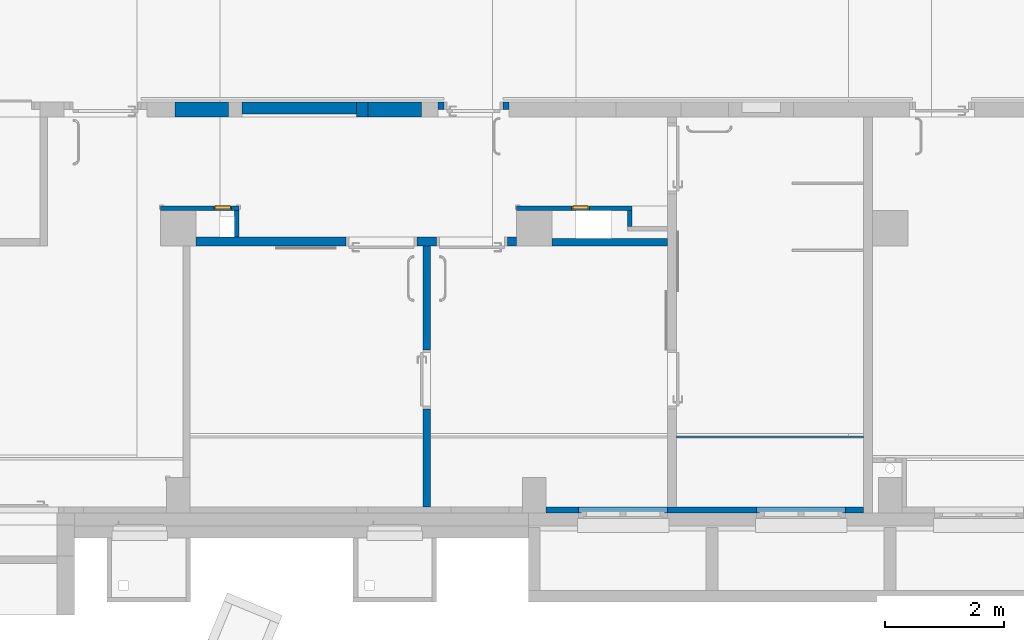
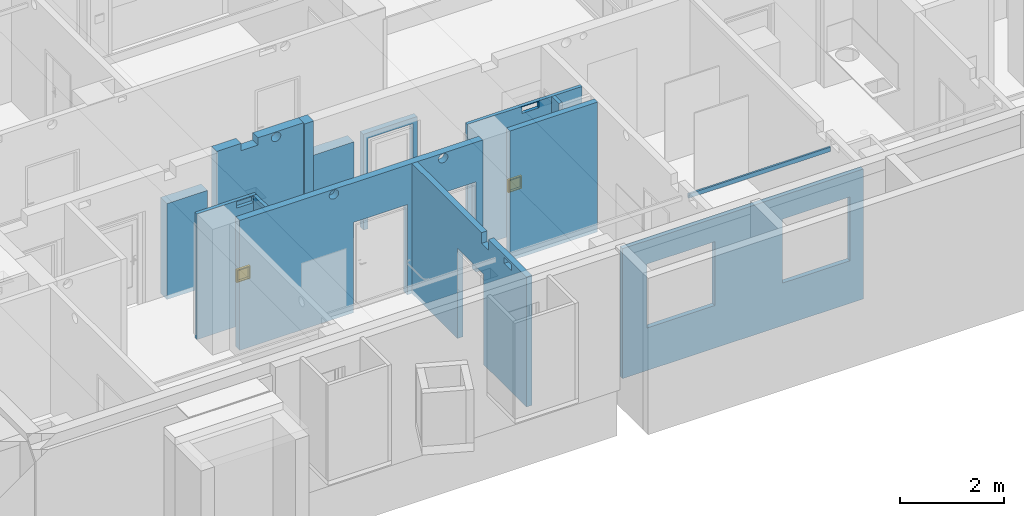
# One storey, part 12 of 84: 14 walls, 2 windows, 17 openings.
"""IFC4 building model written with IfcOpenShell, lengths in metres."""

from ifc_helpers import new_model, entity, si_unit, converted_unit, derived_unit, frame, frame_2d, origin, origin_with_axes, place, context, subcontext, project, spatial, polyline, rectangle, outline, extrude, faceted_brep, source, transform, mapped, material, layer, layer_set, layer_usage, element, fill, save


model = new_model("IFC4")

# Units and contexts
model_context = context("Model", 3, precision=1e-05, world=origin())
body_context = subcontext(model_context, "Body", "Model", "MODEL_VIEW")
ifc_project = project(units=[si_unit("LENGTHUNIT", "METRE"), si_unit("AREAUNIT", "SQUARE_METRE"), si_unit("VOLUMEUNIT", "CUBIC_METRE"), si_unit("MASSUNIT", "GRAM", prefix="KILO"), converted_unit("PLANEANGLEUNIT", "DEGREE", entity("IfcPlaneAngleMeasure", 0.0174532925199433), si_unit("PLANEANGLEUNIT", "RADIAN"), dimensions=[0, 0, 0, 0, 0, 0, 0]), derived_unit("THERMALTRANSMITTANCEUNIT", [(si_unit("POWERUNIT", "WATT"), 1), (si_unit("THERMODYNAMICTEMPERATUREUNIT", "KELVIN"), -1), (si_unit("LENGTHUNIT", "METRE"), -2)]), derived_unit("VOLUMETRICFLOWRATEUNIT", [(si_unit("LENGTHUNIT", "METRE"), 3), (converted_unit("TIMEUNIT", "hour", entity("IfcTimeMeasure", 3600.0), si_unit("TIMEUNIT", "SECOND"), dimensions=[0, 0, 1, 0, 0, 0, 0]), -1), (si_unit("LENGTHUNIT", "METRE"), -1)])], contexts=[model_context])

# Site, building, storey
site_placement = place(None, origin())
site = spatial("IfcSite", under=ifc_project, at=site_placement, Name="3. ASŘ", CompositionType="ELEMENT")
building_placement = place(site_placement, origin())
building = spatial("IfcBuilding", under=site, at=building_placement, Name="Pavilon C", CompositionType="ELEMENT")
storey_placement = place(building_placement, frame((0.0, 0.0, -3.3)))
storey = spatial("IfcBuildingStorey", under=building, at=storey_placement, Name="Půdorys 1.PP", CompositionType="ELEMENT", Elevation=-3.3)

# Wall, openings
ifc_material_1 = material(Name="BETONOVÁ KCE S BARYTEM")
ifc_layer_1 = layer(ifc_material_1, 0.2)
ifc_layer_set_1 = layer_set([ifc_layer_1])
ifc_layer_usage_1 = layer_usage(ifc_layer_set_1, "AXIS2", "POSITIVE", 0.0)
wall_1_placement = place(storey_placement, frame((9.00000000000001, 7.525, -0.1), z_axis=(0.0, 0.0, 1.0), x_axis=(-1.0, 0.0, 0.0)))
wall_1 = element("IfcWall", 1, at=wall_1_placement, inside=storey, material=ifc_layer_usage_1, Name="BETONOVÁ KCE S BARYTEM", context=body_context, shape_type="SweptSolid", body=[
    extrude(rectangle(XDim=1.925, YDim=0.2, at=frame_2d((0.962499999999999, 0.1), x_axis=(1.0, 0.0))), origin_with_axes(), (0.0, 0.0, 1.0), 3.05),
])
opening_1_placement = place(wall_1_placement, frame((0.710868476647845, 0.199999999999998, 2.825), z_axis=(0.0, -1.0, 0.0), x_axis=(0.0, 0.0, 1.0)))
element("IfcOpeningElement", 2, at=opening_1_placement, cuts=wall_1, Name="VZT", ObjectType="Opening", context=body_context, shape_type="SweptSolid", body=[
    extrude(outline(polyline([(0.105, 0.0), (0.0940245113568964, 0.000575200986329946), (0.0831692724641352, 0.00229450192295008), (0.0725532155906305, 0.00513906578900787), (0.062292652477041, 0.00907772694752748), (0.0525, 0.0140673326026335), (0.0432825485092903, 0.0200532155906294), (0.0347412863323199, 0.0269697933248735), (0.0269697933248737, 0.0347412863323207), (0.0200532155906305, 0.0432825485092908), (0.014067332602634, 0.0525), (0.00907772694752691, 0.062292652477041), (0.0051390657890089, 0.0725532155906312), (0.00229450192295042, 0.0831692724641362), (0.000575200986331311, 0.0940245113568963), (0.0, 0.105), (0.000575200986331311, 0.115975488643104), (0.00229450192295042, 0.126830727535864), (0.0051390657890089, 0.137446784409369), (0.00907772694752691, 0.147707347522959), (0.014067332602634, 0.1575), (0.0200532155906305, 0.166717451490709), (0.0269697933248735, 0.175258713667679), (0.0347412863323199, 0.183030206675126), (0.0432825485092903, 0.189946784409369), (0.0525, 0.195932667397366), (0.062292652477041, 0.200922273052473), (0.0725532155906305, 0.204860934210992), (0.0831692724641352, 0.20770549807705), (0.0940245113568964, 0.209424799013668), (0.105, 0.21), (0.115975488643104, 0.209424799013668), (0.126830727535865, 0.20770549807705), (0.137446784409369, 0.204860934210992), (0.147707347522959, 0.200922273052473), (0.1575, 0.195932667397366), (0.16671745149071, 0.189946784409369), (0.17525871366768, 0.183030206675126), (0.183030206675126, 0.175258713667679), (0.189946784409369, 0.166717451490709), (0.195932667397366, 0.1575), (0.200922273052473, 0.147707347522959), (0.204860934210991, 0.137446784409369), (0.20770549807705, 0.126830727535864), (0.209424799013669, 0.115975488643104), (0.21, 0.105), (0.209424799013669, 0.0940245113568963), (0.20770549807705, 0.0831692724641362), (0.204860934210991, 0.0725532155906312), (0.200922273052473, 0.062292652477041), (0.195932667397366, 0.0525), (0.18994678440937, 0.0432825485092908), (0.183030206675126, 0.0347412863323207), (0.17525871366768, 0.0269697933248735), (0.16671745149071, 0.0200532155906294), (0.1575, 0.0140673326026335), (0.147707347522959, 0.00907772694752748), (0.13744678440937, 0.00513906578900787), (0.126830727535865, 0.00229450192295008), (0.115975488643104, 0.000575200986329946), (0.105, 0.0)])), origin_with_axes(), (0.0, 0.0, 1.0), 0.2),
])
opening_2_placement = place(wall_1_placement, frame((1.00999999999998, 0.0, 2.88), z_axis=(0.0, 1.0, 0.0), x_axis=(0.0, 0.0, 1.0)))
element("IfcOpeningElement", 3, at=opening_2_placement, cuts=wall_1, Name="ZTI", ObjectType="Opening", context=body_context, shape_type="SweptSolid", body=[
    extrude(outline(polyline([(0.0, 0.37), (0.17, 0.37), (0.17, 0.0), (0.0, 0.0), (0.0, 0.37)])), origin_with_axes(), (0.0, 0.0, 1.0), 0.2),
])

# Wall
ifc_material_2 = material(Name="BETONOVÁ KCE S BARYTEM")
ifc_layer_2 = layer(ifc_material_2, 0.2)
ifc_layer_set_2 = layer_set([ifc_layer_2])
ifc_layer_usage_2 = layer_usage(ifc_layer_set_2, "AXIS2", "POSITIVE", 0.0)
wall_2_placement = place(storey_placement, frame((9.20000000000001, 7.275, -0.1), z_axis=(0.0, 0.0, 1.0), x_axis=(0.0, 1.0, 0.0)))
element("IfcWall", 4, at=wall_2_placement, inside=storey, material=ifc_layer_usage_2, Name="BETONOVÁ KCE S BARYTEM", context=body_context, shape_type="SweptSolid", body=[
    extrude(rectangle(XDim=0.25, YDim=0.2, at=frame_2d((0.125, 0.1), x_axis=(1.0, 0.0))), origin_with_axes(), (0.0, 0.0, 1.0), 3.05),
])

# Wall, openings
ifc_material_3 = material(Name="PÓROBETONOVÉ ZDIVO")
ifc_layer_3 = layer(ifc_material_3, 0.1)
ifc_layer_set_3 = layer_set([ifc_layer_3])
ifc_layer_usage_3 = layer_usage(ifc_layer_set_3, "AXIS2", "POSITIVE", 0.0)
wall_3_placement = place(storey_placement, frame((12.2, 0.600000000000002, -0.1)))
wall_3 = element("IfcWall", 5, at=wall_3_placement, inside=storey, material=ifc_layer_usage_3, Name="PÓROBETONOVÉ ZDIVO", context=body_context, shape_type="SweptSolid", body=[
    extrude(rectangle(XDim=5.35, YDim=0.1, at=frame_2d((2.675, 0.05), x_axis=(1.0, 0.0))), origin_with_axes(), (0.0, 0.0, 1.0), 3.05),
])
opening_3_placement = place(wall_3_placement, frame((5.05, 0.1, 1.0), z_axis=(0.0, -1.0, 0.0), x_axis=(0.0, 0.0, 1.0)))
element("IfcOpeningElement", 6, at=opening_3_placement, cuts=wall_3, Name="Okenní otvor", ObjectType="Opening", context=body_context, shape_type="SweptSolid", body=[
    extrude(outline(polyline([(0.0, 1.5), (1.5, 1.5), (1.5, 0.0), (0.0, 0.0), (0.0, 1.5)])), origin_with_axes(), (0.0, 0.0, 1.0), 0.1),
])
opening_4_placement = place(wall_3_placement, frame((2.05, 0.1, 1.0), z_axis=(0.0, -1.0, 0.0), x_axis=(0.0, 0.0, 1.0)))
element("IfcOpeningElement", 7, at=opening_4_placement, cuts=wall_3, Name="Okenní otvor", ObjectType="Opening", context=body_context, shape_type="SweptSolid", body=[
    extrude(outline(polyline([(0.0, 1.5), (1.5, 1.5), (1.5, 0.0), (0.0, 0.0), (0.0, 1.5)])), origin_with_axes(), (0.0, 0.0, 1.0), 0.1),
])

# Wall
ifc_material_4 = material(Name="YTONG 250")
ifc_layer_4 = layer(ifc_material_4, 0.25)
ifc_layer_set_4 = layer_set([ifc_layer_4])
ifc_layer_usage_4 = layer_usage(ifc_layer_set_4, "AXIS2", "POSITIVE", 0.0)
wall_4_placement = place(storey_placement, frame((5.945, 7.275, -0.1)))
element("IfcWall", 8, at=wall_4_placement, inside=storey, material=ifc_layer_usage_4, Name="YTONG 250", context=body_context, shape_type="SweptSolid", body=[
    extrude(rectangle(XDim=0.9, YDim=0.25, at=frame_2d((0.45, 0.125), x_axis=(1.0, 0.0))), origin_with_axes(), (0.0, 0.0, 1.0), 2.25),
])

# Wall, opening
ifc_material_5 = material(Name="YTONG 125")
ifc_layer_5 = layer(ifc_material_5, 0.125)
ifc_layer_set_5 = layer_set([ifc_layer_5])
ifc_layer_usage_5 = layer_usage(ifc_layer_set_5, "AXIS2", "POSITIVE", 0.0)
wall_5_placement = place(storey_placement, frame((11.575, 7.525, -0.1), z_axis=(0.0, 0.0, 1.0), x_axis=(-1.0, 0.0, 0.0)))
wall_5 = element("IfcWall", 9, at=wall_5_placement, inside=storey, material=ifc_layer_usage_5, Name="YTONG 125", context=body_context, shape_type="SweptSolid", body=[
    extrude(rectangle(XDim=1.2, YDim=0.125, at=frame_2d((0.6, 0.0625), x_axis=(1.0, 0.0))), origin_with_axes(), (0.0, 0.0, 1.0), 2.25),
])
opening_5_placement = place(wall_5_placement, frame((1.1, 0.125, 0.0), z_axis=(0.0, -1.0, 0.0), x_axis=(0.0, 0.0, 1.0)))
element("IfcOpeningElement", 10, at=opening_5_placement, cuts=wall_5, Name="Dveřní otvor", ObjectType="Opening", context=body_context, shape_type="SweptSolid", body=[
    extrude(outline(polyline([(0.0, 1.0), (2.12, 1.0), (2.12, 0.0), (0.0, 0.0), (0.0, 1.0)])), origin_with_axes(), (0.0, 0.0, 1.0), 0.125),
])

# Walls
ifc_material_6 = material(Name="YTONG 250")
ifc_layer_6 = layer(ifc_material_6, 0.25)
ifc_layer_set_6 = layer_set([ifc_layer_6])
ifc_layer_usage_6 = layer_usage(ifc_layer_set_6, "AXIS2", "POSITIVE", 0.0)
wall_6_placement = place(storey_placement, frame((9.20000000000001, 7.275, -0.1)))
element("IfcWall", 11, at=wall_6_placement, inside=storey, material=ifc_layer_usage_6, Name="YTONG 250", context=body_context, shape_type="SweptSolid", body=[
    extrude(rectangle(XDim=0.9, YDim=0.25, at=frame_2d((0.45, 0.125), x_axis=(1.0, 0.0))), origin_with_axes(), (0.0, 0.0, 1.0), 2.25),
])
ifc_material_7 = material(Name="SDK SVISLA CAST PODHLEDU")
ifc_layer_7 = layer(ifc_material_7, 0.0400000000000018)
ifc_layer_set_7 = layer_set([ifc_layer_7])
ifc_layer_usage_7 = layer_usage(ifc_layer_set_7, "AXIS2", "POSITIVE", 0.0)
wall_7_placement = place(storey_placement, frame((14.4, 1.86, 2.6)))
element("IfcWall", 12, at=wall_7_placement, inside=storey, material=ifc_layer_usage_7, Name="SDK SVISLA CAST PODHLEDU", context=body_context, shape_type="SweptSolid", body=[
    extrude(rectangle(XDim=3.15, YDim=0.0400000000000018, at=frame_2d((1.575, 0.0200000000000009), x_axis=(1.0, 0.0))), origin_with_axes(), (0.0, 0.0, 1.0), 0.1),
])

# Wall, openings
ifc_material_8 = material(Name="SDK - 1 KCE + DVOJITÉ OPLÁŠTĚNÍ")
ifc_layer_8 = layer(ifc_material_8, 0.15)
ifc_layer_set_8 = layer_set([ifc_layer_8])
ifc_layer_usage_8 = layer_usage(ifc_layer_set_8, "AXIS2", "POSITIVE", 0.0)
wall_8_placement = place(storey_placement, frame((6.30000000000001, 5.1, -0.1)))
wall_8 = element("IfcWall", 13, at=wall_8_placement, inside=storey, material=ifc_layer_usage_8, Name="SDK - 1 KCE + DVOJITÉ OPLÁŠTĚNÍ", context=body_context, shape_type="SweptSolid", body=[
    extrude(rectangle(XDim=5.4, YDim=0.15, at=frame_2d((2.7, 0.075), x_axis=(1.0, 0.0))), origin_with_axes(), (0.0, 0.0, 1.0), 3.05),
])
opening_6_placement = place(wall_8_placement, frame((4.05, 0.0, 0.0), z_axis=(0.0, 1.0, 0.0), x_axis=(0.0, 0.0, 1.0)))
element("IfcOpeningElement", 14, at=opening_6_placement, cuts=wall_8, Name="Dveřní otvor", ObjectType="Opening", context=body_context, shape_type="SweptSolid", body=[
    extrude(outline(polyline([(0.0, 1.2), (2.12, 1.2), (2.12, 0.0), (0.0, 0.0), (0.0, 1.2)])), origin_with_axes(), (0.0, 0.0, 1.0), 0.15),
])
opening_7_placement = place(wall_8_placement, frame((2.525, 0.0, 0.0), z_axis=(0.0, 1.0, 0.0), x_axis=(0.0, 0.0, 1.0)))
element("IfcOpeningElement", 15, at=opening_7_placement, cuts=wall_8, Name="Dveřní otvor", ObjectType="Opening", context=body_context, shape_type="SweptSolid", body=[
    extrude(outline(polyline([(0.0, 1.2), (2.12, 1.2), (2.12, 0.0), (0.0, 0.0), (0.0, 1.2)])), origin_with_axes(), (0.0, 0.0, 1.0), 0.15),
])
opening_8_placement = place(wall_8_placement, frame((1.98908287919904, 0.0, 2.825), z_axis=(0.0, 1.0, 0.0), x_axis=(0.0, 0.0, 1.0)))
element("IfcOpeningElement", 16, at=opening_8_placement, cuts=wall_8, Name="VZT", ObjectType="Opening", context=body_context, shape_type="SweptSolid", body=[
    extrude(outline(polyline([(0.104999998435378, 0.0), (0.094024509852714, 0.000575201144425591), (0.0831692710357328, 0.00229450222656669), (0.072553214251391, 0.00513906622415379), (0.0622926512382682, 0.00907772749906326), (0.0524999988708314, 0.0140673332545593), (0.0432825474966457, 0.0200532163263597), (0.0347412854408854, 0.0269697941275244), (0.0269697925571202, 0.0347412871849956), (0.0200532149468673, 0.0432825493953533), (0.0140673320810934, 0.0525000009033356), (0.00907772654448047, 0.0622926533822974), (0.00513906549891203, 0.0725532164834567), (0.00229450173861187, 0.0831692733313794), (0.000575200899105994, 0.0940245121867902), (0.0, 0.105000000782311), (0.000575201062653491, 0.115975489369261), (0.00229450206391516, 0.126830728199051), (0.00513906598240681, 0.137446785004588), (0.0090777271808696, 0.147707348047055), (0.0140673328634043, 0.157500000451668), (0.0200532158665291, 0.166717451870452), (0.0269697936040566, 0.175258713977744), (0.034741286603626, 0.183030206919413), (0.0432825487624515, 0.189946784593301), (0.0525000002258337, 0.195932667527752), (0.0622926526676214, 0.200922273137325), (0.0725532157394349, 0.204860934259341), (0.083169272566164, 0.207705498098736), (0.0940245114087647, 0.209424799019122), (0.105, 0.21), (0.115975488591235, 0.209424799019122), (0.126830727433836, 0.207705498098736), (0.137446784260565, 0.204860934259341), (0.147707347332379, 0.200922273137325), (0.157499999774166, 0.195932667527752), (0.166717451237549, 0.189946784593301), (0.175258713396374, 0.183030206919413), (0.183030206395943, 0.175258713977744), (0.189946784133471, 0.166717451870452), (0.195932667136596, 0.157500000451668), (0.20092227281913, 0.147707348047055), (0.204860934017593, 0.137446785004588), (0.207705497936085, 0.126830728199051), (0.209424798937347, 0.115975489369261), (0.21, 0.105000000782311), (0.209424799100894, 0.0940245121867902), (0.207705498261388, 0.0831692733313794), (0.204860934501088, 0.0725532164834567), (0.200922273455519, 0.0622926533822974), (0.195932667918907, 0.0525000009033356), (0.189946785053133, 0.0432825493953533), (0.18303020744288, 0.0347412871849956), (0.175258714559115, 0.0269697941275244), (0.166717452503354, 0.0200532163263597), (0.157500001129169, 0.0140673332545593), (0.147707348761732, 0.00907772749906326), (0.137446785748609, 0.00513906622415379), (0.126830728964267, 0.00229450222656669), (0.115975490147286, 0.000575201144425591), (0.104999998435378, 0.0)])), origin_with_axes(), (0.0, 0.0, 1.0), 0.15),
])
opening_9_placement = place(wall_8_placement, frame((4.41400000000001, 0.0, 2.825), z_axis=(0.0, 1.0, 0.0), x_axis=(0.0, 0.0, 1.0)))
element("IfcOpeningElement", 17, at=opening_9_placement, cuts=wall_8, Name="VZT", ObjectType="Opening", context=body_context, shape_type="SweptSolid", body=[
    extrude(outline(polyline([(0.104999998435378, 0.0), (0.094024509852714, 0.000575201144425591), (0.0831692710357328, 0.00229450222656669), (0.072553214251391, 0.00513906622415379), (0.0622926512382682, 0.00907772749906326), (0.0524999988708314, 0.0140673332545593), (0.0432825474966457, 0.0200532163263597), (0.0347412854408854, 0.0269697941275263), (0.0269697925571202, 0.0347412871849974), (0.0200532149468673, 0.0432825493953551), (0.0140673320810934, 0.0525000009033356), (0.00907772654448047, 0.0622926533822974), (0.00513906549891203, 0.0725532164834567), (0.00229450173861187, 0.0831692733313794), (0.000575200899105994, 0.0940245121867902), (0.0, 0.105000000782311), (0.000575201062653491, 0.115975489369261), (0.00229450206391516, 0.126830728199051), (0.00513906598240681, 0.137446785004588), (0.0090777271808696, 0.147707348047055), (0.0140673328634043, 0.157500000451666), (0.0200532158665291, 0.166717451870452), (0.0269697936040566, 0.175258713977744), (0.034741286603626, 0.183030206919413), (0.0432825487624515, 0.189946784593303), (0.0525000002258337, 0.195932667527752), (0.0622926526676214, 0.200922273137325), (0.0725532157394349, 0.204860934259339), (0.083169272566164, 0.207705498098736), (0.0940245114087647, 0.20942479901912), (0.105, 0.21), (0.115975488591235, 0.20942479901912), (0.126830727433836, 0.207705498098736), (0.137446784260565, 0.204860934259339), (0.147707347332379, 0.200922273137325), (0.157499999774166, 0.195932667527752), (0.166717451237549, 0.189946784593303), (0.175258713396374, 0.183030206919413), (0.183030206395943, 0.175258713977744), (0.189946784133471, 0.166717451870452), (0.195932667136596, 0.157500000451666), (0.20092227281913, 0.147707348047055), (0.204860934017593, 0.137446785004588), (0.207705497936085, 0.126830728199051), (0.209424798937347, 0.115975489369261), (0.21, 0.105000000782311), (0.209424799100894, 0.0940245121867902), (0.207705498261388, 0.0831692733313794), (0.204860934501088, 0.0725532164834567), (0.200922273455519, 0.0622926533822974), (0.195932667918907, 0.0525000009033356), (0.189946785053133, 0.0432825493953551), (0.18303020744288, 0.0347412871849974), (0.175258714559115, 0.0269697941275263), (0.166717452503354, 0.0200532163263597), (0.157500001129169, 0.0140673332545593), (0.147707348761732, 0.00907772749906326), (0.137446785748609, 0.00513906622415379), (0.126830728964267, 0.00229450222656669), (0.115975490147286, 0.000575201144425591), (0.104999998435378, 0.0)])), origin_with_axes(), (0.0, 0.0, 1.0), 0.15),
])

ifc_material_9 = material(Name="SDK - 1 KCE + DVOJITÉ OPLÁŠTĚNÍ")
ifc_layer_9 = layer(ifc_material_9, 0.125)
ifc_layer_set_9 = layer_set([ifc_layer_9])
ifc_layer_usage_9 = layer_usage(ifc_layer_set_9, "AXIS2", "POSITIVE", 0.0)
wall_9_placement = place(storey_placement, frame((10.25, 0.700000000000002, -0.1), z_axis=(0.0, 0.0, 1.0), x_axis=(0.0, 1.0, 0.0)))
wall_9 = element("IfcWall", 18, at=wall_9_placement, inside=storey, material=ifc_layer_usage_9, Name="SDK - 1 KCE + DVOJITÉ OPLÁŠTĚNÍ", context=body_context, shape_type="SweptSolid", body=[
    extrude(rectangle(XDim=4.4, YDim=0.125, at=frame_2d((2.2, 0.0625), x_axis=(1.0, 0.0))), origin_with_axes(), (0.0, 0.0, 1.0), 3.05),
])
opening_10_placement = place(wall_9_placement, frame((2.65, 0.125, 0.0), z_axis=(0.0, -1.0, 0.0), x_axis=(0.0, 0.0, 1.0)))
element("IfcOpeningElement", 19, at=opening_10_placement, cuts=wall_9, Name="Dveřní otvor", ObjectType="Opening", context=body_context, shape_type="SweptSolid", body=[
    extrude(outline(polyline([(0.0, 1.0), (2.12, 1.0), (2.12, 0.0), (0.0, 0.0), (0.0, 1.0)])), origin_with_axes(), (0.0, 0.0, 1.0), 0.125),
])
opening_11_placement = place(wall_9_placement, frame((0.861971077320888, 0.125, 2.85), z_axis=(0.0, -1.0, 0.0), x_axis=(0.0, 0.0, 1.0)))
element("IfcOpeningElement", 20, at=opening_11_placement, cuts=wall_9, Name="UT", ObjectType="Opening", context=body_context, shape_type="SweptSolid", body=[
    extrude(outline(polyline([(0.0, 0.3), (0.15, 0.3), (0.15, 0.0), (0.0, 0.0), (0.0, 0.3)])), origin_with_axes(), (0.0, 0.0, 1.0), 0.125),
])
opening_12_placement = place(wall_9_placement, frame((1.72197111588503, 0.125000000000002, 2.8), z_axis=(0.0, -1.0, 0.0), x_axis=(0.0, 0.0, 1.0)))
element("IfcOpeningElement", 21, at=opening_12_placement, cuts=wall_9, Name="VZT", ObjectType="Opening", context=body_context, shape_type="SweptSolid", body=[
    extrude(outline(polyline([(0.0, 0.26), (0.25, 0.26), (0.25, 0.0), (0.0, 0.0), (0.0, 0.26)])), origin_with_axes(), (0.0, 0.0, 1.0), 0.125),
])

# Wall, openings, window
ifc_material_10 = material(Name="SDK ŠACHTOVÁ STĚNA/SDK OPL. S PO")
ifc_layer_10 = layer(ifc_material_10, 0.075)
ifc_layer_set_10 = layer_set([ifc_layer_10])
ifc_layer_usage_10 = layer_usage(ifc_layer_set_10, "AXIS2", "POSITIVE", 0.0)
wall_10_placement = place(storey_placement, frame((11.7, 5.7, 0.0), z_axis=(0.0, 0.0, 1.0), x_axis=(1.0, 7.13329177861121e-16, 0.0)))
wall_10 = element("IfcWall", 22, at=wall_10_placement, inside=storey, material=ifc_layer_usage_10, Name="SDK ŠACHTOVÁ STĚNA/SDK OPL. S PO", context=body_context, shape_type="SweptSolid", body=[
    extrude(rectangle(XDim=2.55, YDim=0.075, at=frame_2d((1.275, 0.0375), x_axis=(1.0, 0.0))), origin_with_axes(), (0.0, 0.0, 1.0), 2.95),
])
opening_13_placement = place(wall_10_placement, frame((2.55, 0.075, 0.0), z_axis=(0.0, -1.0, 0.0), x_axis=(0.0, 0.0, 1.0)))
element("IfcOpeningElement", 23, at=opening_13_placement, cuts=wall_10, Name="Dveřní otvor", ObjectType="Opening", context=body_context, shape_type="SweptSolid", body=[
    extrude(outline(polyline([(0.0, 0.6), (2.0, 0.6), (2.0, 0.0), (0.0, 0.0), (0.0, 0.6)])), origin_with_axes(), (0.0, 0.0, 1.0), 0.075),
])
opening_14_placement = place(wall_10_placement, frame((1.23, 0.075, 1.0), z_axis=(0.0, -1.0, 0.0), x_axis=(0.0, 0.0, 1.0)))
opening_14 = element("IfcOpeningElement", 24, at=opening_14_placement, cuts=wall_10, Name="Okenní otvor", ObjectType="Opening", context=body_context, shape_type="SweptSolid", body=[
    extrude(outline(polyline([(0.0, 0.3), (0.3, 0.3), (0.3, 0.0), (0.0, 0.0), (0.0, 0.3)])), origin_with_axes(), (0.0, 0.0, 1.0), 0.075),
])
opening_15_placement = place(wall_10_placement, frame((1.59000000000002, 0.0749999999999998, 2.78), z_axis=(0.0, -1.0, 0.0), x_axis=(0.0, 0.0, 1.0)))
element("IfcOpeningElement", 25, at=opening_15_placement, cuts=wall_10, Name="ZTI", ObjectType="Opening", context=body_context, shape_type="SweptSolid", body=[
    extrude(outline(polyline([(0.0, 0.37), (0.15, 0.37), (0.15, 0.0), (0.0, 0.0), (0.0, 0.37)])), origin_with_axes(), (0.0, 0.0, 1.0), 0.075),
])
shared_shape = source(origin_with_axes(), body_context, "Body", "Brep", [
    faceted_brep([(0.0, 0.06, 0.3), (0.0, 0.06, 4.91096680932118e-19), (0.02, 0.06, 4.91096680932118e-19), (0.02, 0.06, 0.3), (0.0, 0.01, 6.61433067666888e-18), (0.0, 0.01, 0.3), (0.02, 0.01, 0.3), (0.02, 0.01, 6.61433067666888e-18)], [[[0, 1, 2, 3]], [[4, 5, 6, 7]], [[1, 0, 5, 4]], [[2, 1, 4, 7]], [[3, 2, 7, 6]], [[0, 3, 6, 5]]], orient=[[False], [False], [False], [False], [False], [False]]),
    faceted_brep([(0.28, 0.06, 0.3), (0.28, 0.06, 4.91096680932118e-19), (0.3, 0.06, 4.91096680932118e-19), (0.3, 0.06, 0.3), (0.28, 0.01, 6.61433067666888e-18), (0.28, 0.01, 0.3), (0.3, 0.01, 0.3), (0.3, 0.01, 6.61433067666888e-18)], [[[0, 1, 2, 3]], [[4, 5, 6, 7]], [[1, 0, 5, 4]], [[2, 1, 4, 7]], [[3, 2, 7, 6]], [[0, 3, 6, 5]]], orient=[[False], [False], [False], [False], [False], [False]]),
    faceted_brep([(0.02, 0.06, 0.02), (0.02, 0.06, 4.91096680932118e-19), (0.28, 0.06, 4.91096680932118e-19), (0.28, 0.06, 0.02), (0.02, 0.01, 6.61433067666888e-18), (0.02, 0.01, 0.02), (0.28, 0.01, 0.02), (0.28, 0.01, 6.61433067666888e-18)], [[[0, 1, 2, 3]], [[4, 5, 6, 7]], [[1, 0, 5, 4]], [[2, 1, 4, 7]], [[3, 2, 7, 6]], [[0, 3, 6, 5]]], orient=[[False], [False], [False], [False], [False], [False]]),
    faceted_brep([(0.02, 0.06, 0.3), (0.02, 0.06, 0.28), (0.28, 0.06, 0.28), (0.28, 0.06, 0.3), (0.02, 0.01, 0.28), (0.02, 0.01, 0.3), (0.28, 0.01, 0.3), (0.28, 0.01, 0.28)], [[[0, 1, 2, 3]], [[4, 5, 6, 7]], [[1, 0, 5, 4]], [[2, 1, 4, 7]], [[3, 2, 7, 6]], [[0, 3, 6, 5]]], orient=[[False], [False], [False], [False], [False], [False]]),
    faceted_brep([(0.02, 0.01, 0.28), (0.02, 0.01, 0.02), (0.28, 0.01, 0.02), (0.28, 0.01, 0.28), (0.02, 0.0, 0.02), (0.02, 3.19744231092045e-17, 0.28), (0.28, 3.19744231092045e-17, 0.28), (0.28, 0.0, 0.02)], [[[0, 1, 2, 3]], [[4, 5, 6, 7]], [[1, 0, 5, 4]], [[2, 1, 4, 7]], [[3, 2, 7, 6]], [[0, 3, 6, 5]]], orient=[[False], [False], [False], [False], [False], [False]]),
])
window_1_placement = place(opening_14_placement, frame((0.0, 0.3, -0.01), z_axis=(1.0, 0.0, 0.0), x_axis=(0.0, -1.0, 8.35793857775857e-16)))
window_1 = element("IfcWindow", 26, at=window_1_placement, inside=storey, OverallHeight=0.3, OverallWidth=0.3, PartitioningType="USERDEFINED", PredefinedType="WINDOW", context=body_context, shape_type="MappedRepresentation", body=[
    mapped(shared_shape, transform((0.0, 0.0, 0.0), x_axis=(1.0, 0.0, 0.0), y_axis=(0.0, -1.0, 0.0), z_axis=(0.0, 0.0, 1.0), scale=1.0)),
])
fill(opening_14, window_1)

ifc_material_11 = material(Name="SDK ŠACHTOVÁ STĚNA/SDK OPL. S PO")
ifc_layer_11 = layer(ifc_material_11, 0.075)
ifc_layer_set_11 = layer_set([ifc_layer_11])
ifc_layer_usage_11 = layer_usage(ifc_layer_set_11, "AXIS2", "POSITIVE", 0.0)
wall_11_placement = place(storey_placement, frame((5.70000000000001, 5.7, 0.0), z_axis=(0.0, 0.0, 1.0), x_axis=(1.0, 6.86411095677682e-16, 0.0)))
wall_11 = element("IfcWall", 27, at=wall_11_placement, inside=storey, material=ifc_layer_usage_11, Name="SDK ŠACHTOVÁ STĚNA/SDK OPL. S PO", context=body_context, shape_type="SweptSolid", body=[
    extrude(rectangle(XDim=1.325, YDim=0.075, at=frame_2d((0.6625, 0.0375), x_axis=(1.0, 0.0))), origin_with_axes(), (0.0, 0.0, 1.0), 2.95),
])
opening_16_placement = place(wall_11_placement, frame((1.2, 0.0750000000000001, 1.0), z_axis=(0.0, -1.0, 0.0), x_axis=(0.0, 0.0, 1.0)))
opening_16 = element("IfcOpeningElement", 28, at=opening_16_placement, cuts=wall_11, Name="Okenní otvor", ObjectType="Opening", context=body_context, shape_type="SweptSolid", body=[
    extrude(outline(polyline([(0.0, 0.3), (0.3, 0.3), (0.3, 0.0), (0.0, 0.0), (0.0, 0.3)])), origin_with_axes(), (0.0, 0.0, 1.0), 0.075),
])
opening_17_placement = place(wall_11_placement, frame((0.88, 3.05452937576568e-16, 2.78), z_axis=(0.0, 1.0, 0.0), x_axis=(0.0, 0.0, 1.0)))
element("IfcOpeningElement", 29, at=opening_17_placement, cuts=wall_11, Name="ZTI", ObjectType="Opening", context=body_context, shape_type="SweptSolid", body=[
    extrude(outline(polyline([(0.0, 0.37), (0.15, 0.37), (0.15, 0.0), (0.0, 0.0), (0.0, 0.37)])), origin_with_axes(), (0.0, 0.0, 1.0), 0.075),
])
window_2_placement = place(opening_16_placement, frame((0.0, 0.3, -0.01), z_axis=(1.0, 0.0, 0.0), x_axis=(0.0, -1.0, 8.08875775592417e-16)))
window_2 = element("IfcWindow", 30, at=window_2_placement, inside=storey, OverallHeight=0.3, OverallWidth=0.3, PartitioningType="USERDEFINED", PredefinedType="WINDOW", context=body_context, shape_type="MappedRepresentation", body=[
    mapped(shared_shape, transform((0.0, 0.0, 0.0), x_axis=(1.0, 0.0, 0.0), y_axis=(0.0, -1.0, 0.0), z_axis=(0.0, 0.0, 1.0), scale=1.0)),
])
fill(opening_16, window_2)

# Walls
ifc_material_12 = material(Name="SDK ŠACHTOVÁ STĚNA/SDK OPL. S PO")
ifc_layer_12 = layer(ifc_material_12, 0.075)
ifc_layer_set_12 = layer_set([ifc_layer_12])
ifc_layer_usage_12 = layer_usage(ifc_layer_set_12, "AXIS2", "POSITIVE", 0.0)
wall_12_placement = place(storey_placement, frame((6.95000000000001, 5.7, 0.0), z_axis=(0.0, 0.0, 1.0), x_axis=(0.0, -1.0, 0.0)))
element("IfcWall", 31, at=wall_12_placement, inside=storey, material=ifc_layer_usage_12, Name="SDK ŠACHTOVÁ STĚNA/SDK OPL. S PO", context=body_context, shape_type="SweptSolid", body=[
    extrude(rectangle(XDim=0.450000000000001, YDim=0.075, at=frame_2d((0.225, 0.0375), x_axis=(1.0, 0.0))), origin_with_axes(), (0.0, 0.0, 1.0), 2.95),
])
ifc_material_13 = material(Name="SDK - 1 KCE + DVOJITÉ OPLÁŠTĚNÍ")
ifc_layer_13 = layer(ifc_material_13, 0.125)
ifc_layer_set_13 = layer_set([ifc_layer_13])
ifc_layer_usage_13 = layer_usage(ifc_layer_set_13, "AXIS2", "POSITIVE", 0.0)
wall_13_placement = place(storey_placement, frame((12.3, 5.1, -0.1)))
element("IfcWall", 32, at=wall_13_placement, inside=storey, material=ifc_layer_usage_13, Name="SDK - 1 KCE + DVOJITÉ OPLÁŠTĚNÍ", context=body_context, shape_type="SweptSolid", body=[
    extrude(rectangle(XDim=1.95, YDim=0.125, at=frame_2d((0.974999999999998, 0.0625), x_axis=(1.0, 0.0))), origin_with_axes(), (0.0, 0.0, 1.0), 3.05),
])
ifc_material_14 = material(Name="SDK ŠACHTOVÁ STĚNA/SDK OPL. S PO")
ifc_layer_14 = layer(ifc_material_14, 0.075)
ifc_layer_set_14 = layer_set([ifc_layer_14])
ifc_layer_usage_14 = layer_usage(ifc_layer_set_14, "AXIS2", "POSITIVE", 0.0)
wall_14_placement = place(storey_placement, frame((13.65, 5.425, 0.0), z_axis=(0.0, 0.0, 1.0), x_axis=(0.0, 1.0, 0.0)))
element("IfcWall", 33, at=wall_14_placement, inside=storey, material=ifc_layer_usage_14, Name="SDK ŠACHTOVÁ STĚNA/SDK OPL. S PO", context=body_context, shape_type="SweptSolid", body=[
    extrude(rectangle(XDim=0.275000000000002, YDim=0.075, at=frame_2d((0.137500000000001, 0.0375), x_axis=(1.0, 0.0))), origin_with_axes(), (0.0, 0.0, 1.0), 2.95),
])

save(model, "model.ifc")
